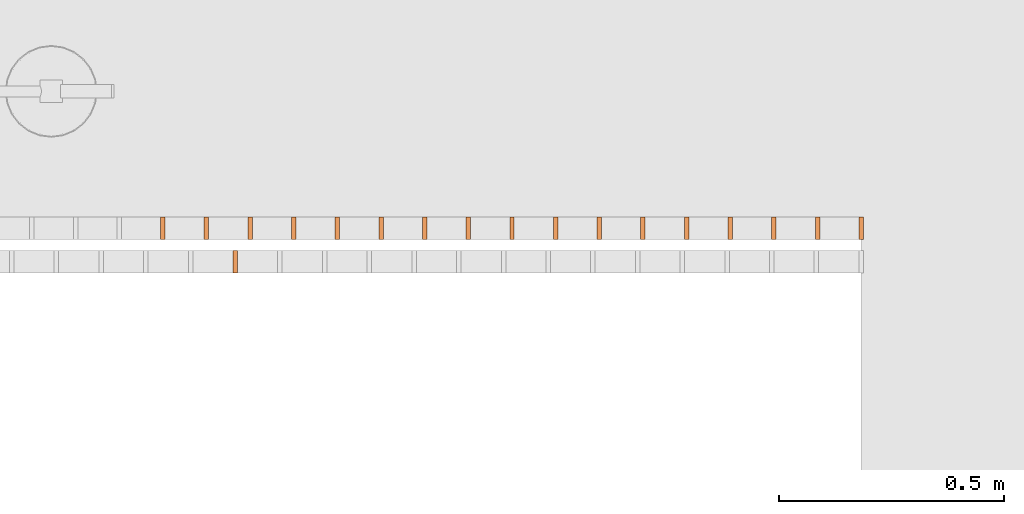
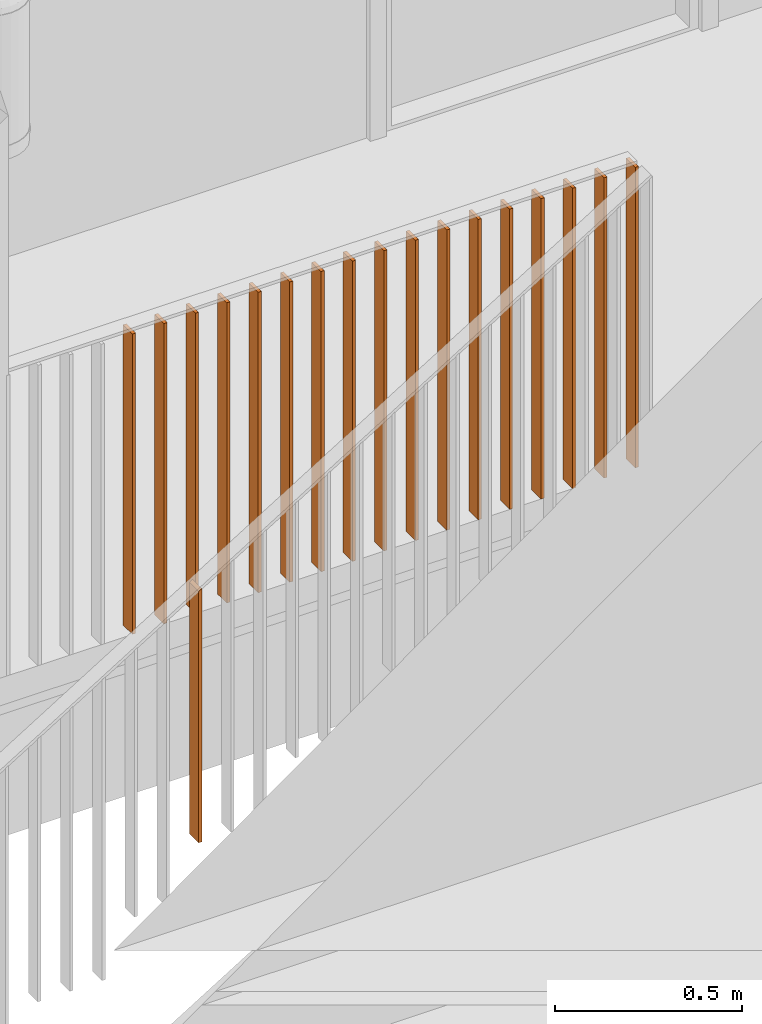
# One storey, part 84 of 100: 18 proxies, 2 elements without a shape of their own.
"""IFC2X3 building model written with IfcOpenShell, lengths in millimetres."""

from ifc_helpers import new_model, entity, si_unit, converted_unit, derived_unit, money_unit, direction, frame, origin_with_axes, place, context, subcontext, project, spatial, faceted_brep, source, transform, mapped, material, type_object, element, aggregate, save


model = new_model("IFC2X3")

# Units and contexts
model_context = context("Model", 3, precision=0.01, world=origin_with_axes(), true_north=direction((0.0, 1.0)))
body_context = subcontext(model_context, "Body", "Model", "MODEL_VIEW")
ifc_project = project(units=[si_unit("LENGTHUNIT", "METRE", prefix="MILLI"), si_unit("AREAUNIT", "SQUARE_METRE"), si_unit("VOLUMEUNIT", "CUBIC_METRE"), converted_unit("PLANEANGLEUNIT", "DEGREE", entity("IfcPlaneAngleMeasure", 0.0174532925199), si_unit("PLANEANGLEUNIT", "RADIAN"), dimensions=[0, 0, 0, 0, 0, 0, 0]), si_unit("SOLIDANGLEUNIT", "STERADIAN"), money_unit("EUR"), converted_unit("TIMEUNIT", "Year", entity("IfcTimeMeasure", 31556926.0), si_unit("TIMEUNIT", "SECOND"), dimensions=[0, 0, 1, 0, 0, 0, 0]), si_unit("MASSUNIT", "GRAM", prefix="KILO"), si_unit("THERMODYNAMICTEMPERATUREUNIT", "DEGREE_CELSIUS"), si_unit("LUMINOUSINTENSITYUNIT", "LUMEN"), si_unit("ENERGYUNIT", "JOULE", prefix="MEGA"), derived_unit("THERMALCONDUCTANCEUNIT", [(si_unit("POWERUNIT", "WATT"), 1), (si_unit("LENGTHUNIT", "METRE"), -1), (si_unit("THERMODYNAMICTEMPERATUREUNIT", "KELVIN"), -1)]), derived_unit("SPECIFICHEATCAPACITYUNIT", [(si_unit("ENERGYUNIT", "JOULE"), 1), (si_unit("MASSUNIT", "GRAM", prefix="KILO"), -1), (si_unit("THERMODYNAMICTEMPERATUREUNIT", "KELVIN"), -1)]), derived_unit("MASSDENSITYUNIT", [(si_unit("MASSUNIT", "GRAM", prefix="KILO"), 1), (si_unit("VOLUMEUNIT", "CUBIC_METRE"), -1)])], contexts=[model_context])

# Site, building, storey
site_placement = place(None, origin_with_axes())
site = spatial("IfcSite", under=ifc_project, at=site_placement, Name="Politse- ja Piirivalveameti ning Päästeameti ühishoone", CompositionType="ELEMENT")
building_placement = place(site_placement, origin_with_axes())
building = spatial("IfcBuilding", under=site, at=building_placement, Name="Politse- ja Piirivalveameti ning Päästeameti ühishoone", CompositionType="ELEMENT")
storey_placement = place(building_placement, frame((0.0, 0.0, 3800.0), z_axis=(0.0, 0.0, 1.0), x_axis=(1.0, 0.0, 0.0)))
storey = spatial("IfcBuildingStorey", under=building, at=storey_placement, Name="Teine korrus", CompositionType="ELEMENT", Elevation=3800.0)

# Railing, proxies
railing_type = type_object("IfcRailingType", Name="Railing Type", PredefinedType="NOTDEFINED")
railing_1_placement = place(storey_placement, frame((26625.7771626, 12810.0198723, -2.69359405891e-05), z_axis=(0.0, 0.0, 1.0), x_axis=(0.0, 1.0, 0.0)))
railing_1 = element("IfcRailing", 1, at=railing_1_placement, inside=storey, type_object=railing_type, Name="PIIRE 2", PredefinedType="NOTDEFINED")
ifc_material = material(Name="Teras - Konstruktsioon")
building_element_proxy_type = type_object("IfcBuildingElementProxyType", Name="IfcBuildingElementProxy", PredefinedType="NOTDEFINED")
shared_shape_1 = source(origin_with_axes(), body_context, "Body", "Brep", [
    faceted_brep([(25.0, 5.0, 0.0), (-25.0, 5.0, 0.0), (-25.0, 5.0, 980.0), (25.0, 5.0, 980.0), (25.0, -5.0, 0.0), (-25.0, -5.0, 0.0), (-25.0, -5.0, 980.0), (25.0, -5.0, 980.0)], [[[0, 1, 2, 3]], [[0, 4, 5, 1]], [[1, 5, 6, 2]], [[3, 2, 6, 7]], [[4, 0, 3, 7]], [[5, 4, 7, 6]]]),
])
proxy_1_placement = place(railing_1_placement, frame((25.0, 1425.75114423, 0.0), z_axis=(0.0, 0.0, 1.0), x_axis=(0.0, -1.0, 0.0)))
proxy_1 = element("IfcBuildingElementProxy", 2, at=proxy_1_placement, type_object=building_element_proxy_type, material=ifc_material, Name="PIIRDE POST - 001", context=body_context, shape_type="MappedRepresentation", body=[
    mapped(shared_shape_1, transform((0.0, 0.0, 0.0), x_axis=(0.0, 1.0, 0.0), y_axis=(-1.0, 0.0, 0.0), z_axis=(0.0, 0.0, 1.0))),
])
shared_shape_2 = source(origin_with_axes(), body_context, "Body", "Brep", [
    faceted_brep([(25.0, 5.0, 0.0), (-25.0, 5.0, 0.0), (-25.0, 5.0, 980.000012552), (25.0, 5.0, 980.000012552), (25.0, -5.0, 0.0), (-25.0, -5.0, 0.0), (-25.0, -5.0, 980.000012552), (25.0, -5.0, 980.000012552)], [[[0, 1, 2, 3]], [[0, 4, 5, 1]], [[1, 5, 6, 2]], [[3, 2, 6, 7]], [[4, 0, 3, 7]], [[5, 4, 7, 6]]]),
])
proxy_2_placement = place(railing_1_placement, frame((25.0, 1522.75114423, -1.25516996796e-05), z_axis=(0.0, 0.0, 1.0), x_axis=(0.0, -1.0, 0.0)))
proxy_2 = element("IfcBuildingElementProxy", 3, at=proxy_2_placement, type_object=building_element_proxy_type, material=ifc_material, Name="BALUSTER - 001", context=body_context, shape_type="MappedRepresentation", body=[
    mapped(shared_shape_2, transform((0.0, 0.0, 0.0), x_axis=(0.0, 1.0, 0.0), y_axis=(-1.0, 0.0, 0.0), z_axis=(0.0, 0.0, 1.0))),
])
proxy_3_placement = place(railing_1_placement, frame((25.0, 1619.75114423, -1.25516996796e-05), z_axis=(0.0, 0.0, 1.0), x_axis=(0.0, -1.0, 0.0)))
proxy_3 = element("IfcBuildingElementProxy", 4, at=proxy_3_placement, type_object=building_element_proxy_type, material=ifc_material, Name="BALUSTER - 001", context=body_context, shape_type="MappedRepresentation", body=[
    mapped(shared_shape_2, transform((0.0, 0.0, 0.0), x_axis=(0.0, 1.0, 0.0), y_axis=(-1.0, 0.0, 0.0), z_axis=(0.0, 0.0, 1.0))),
])
proxy_4_placement = place(railing_1_placement, frame((25.0, 1716.75114423, -1.25516996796e-05), z_axis=(0.0, 0.0, 1.0), x_axis=(0.0, -1.0, 0.0)))
proxy_4 = element("IfcBuildingElementProxy", 5, at=proxy_4_placement, type_object=building_element_proxy_type, material=ifc_material, Name="BALUSTER - 001", context=body_context, shape_type="MappedRepresentation", body=[
    mapped(shared_shape_2, transform((0.0, 0.0, 0.0), x_axis=(0.0, 1.0, 0.0), y_axis=(-1.0, 0.0, 0.0), z_axis=(0.0, 0.0, 1.0))),
])
proxy_5_placement = place(railing_1_placement, frame((25.0, 1813.75114423, -1.25516996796e-05), z_axis=(0.0, 0.0, 1.0), x_axis=(0.0, -1.0, 0.0)))
proxy_5 = element("IfcBuildingElementProxy", 6, at=proxy_5_placement, type_object=building_element_proxy_type, material=ifc_material, Name="BALUSTER - 001", context=body_context, shape_type="MappedRepresentation", body=[
    mapped(shared_shape_2, transform((0.0, 0.0, 0.0), x_axis=(0.0, 1.0, 0.0), y_axis=(-1.0, 0.0, 0.0), z_axis=(0.0, 0.0, 1.0))),
])
proxy_6_placement = place(railing_1_placement, frame((25.0, 1910.75114423, -1.25516996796e-05), z_axis=(0.0, 0.0, 1.0), x_axis=(0.0, -1.0, 0.0)))
proxy_6 = element("IfcBuildingElementProxy", 7, at=proxy_6_placement, type_object=building_element_proxy_type, material=ifc_material, Name="BALUSTER - 001", context=body_context, shape_type="MappedRepresentation", body=[
    mapped(shared_shape_2, transform((0.0, 0.0, 0.0), x_axis=(0.0, 1.0, 0.0), y_axis=(-1.0, 0.0, 0.0), z_axis=(0.0, 0.0, 1.0))),
])
proxy_7_placement = place(railing_1_placement, frame((25.0, 2007.75114423, -1.25516996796e-05), z_axis=(0.0, 0.0, 1.0), x_axis=(0.0, -1.0, 0.0)))
proxy_7 = element("IfcBuildingElementProxy", 8, at=proxy_7_placement, type_object=building_element_proxy_type, material=ifc_material, Name="BALUSTER - 001", context=body_context, shape_type="MappedRepresentation", body=[
    mapped(shared_shape_2, transform((0.0, 0.0, 0.0), x_axis=(0.0, 1.0, 0.0), y_axis=(-1.0, 0.0, 0.0), z_axis=(0.0, 0.0, 1.0))),
])
proxy_8_placement = place(railing_1_placement, frame((25.0, 2104.75114423, -1.25516996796e-05), z_axis=(0.0, 0.0, 1.0), x_axis=(0.0, -1.0, 0.0)))
proxy_8 = element("IfcBuildingElementProxy", 9, at=proxy_8_placement, type_object=building_element_proxy_type, material=ifc_material, Name="BALUSTER - 001", context=body_context, shape_type="MappedRepresentation", body=[
    mapped(shared_shape_2, transform((0.0, 0.0, 0.0), x_axis=(0.0, 1.0, 0.0), y_axis=(-1.0, 0.0, 0.0), z_axis=(0.0, 0.0, 1.0))),
])
proxy_9_placement = place(railing_1_placement, frame((25.0, 2201.75114423, -1.25516996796e-05), z_axis=(0.0, 0.0, 1.0), x_axis=(0.0, -1.0, 0.0)))
proxy_9 = element("IfcBuildingElementProxy", 10, at=proxy_9_placement, type_object=building_element_proxy_type, material=ifc_material, Name="BALUSTER - 001", context=body_context, shape_type="MappedRepresentation", body=[
    mapped(shared_shape_2, transform((0.0, 0.0, 0.0), x_axis=(0.0, 1.0, 0.0), y_axis=(-1.0, 0.0, 0.0), z_axis=(0.0, 0.0, 1.0))),
])
proxy_10_placement = place(railing_1_placement, frame((25.0, 2298.75114423, -1.25516996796e-05), z_axis=(0.0, 0.0, 1.0), x_axis=(0.0, -1.0, 0.0)))
proxy_10 = element("IfcBuildingElementProxy", 11, at=proxy_10_placement, type_object=building_element_proxy_type, material=ifc_material, Name="BALUSTER - 001", context=body_context, shape_type="MappedRepresentation", body=[
    mapped(shared_shape_2, transform((0.0, 0.0, 0.0), x_axis=(0.0, 1.0, 0.0), y_axis=(-1.0, 0.0, 0.0), z_axis=(0.0, 0.0, 1.0))),
])
proxy_11_placement = place(railing_1_placement, frame((25.0, 2395.75114423, -1.25516996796e-05), z_axis=(0.0, 0.0, 1.0), x_axis=(0.0, -1.0, 0.0)))
proxy_11 = element("IfcBuildingElementProxy", 12, at=proxy_11_placement, type_object=building_element_proxy_type, material=ifc_material, Name="BALUSTER - 001", context=body_context, shape_type="MappedRepresentation", body=[
    mapped(shared_shape_2, transform((0.0, 0.0, 0.0), x_axis=(0.0, 1.0, 0.0), y_axis=(-1.0, 0.0, 0.0), z_axis=(0.0, 0.0, 1.0))),
])
proxy_12_placement = place(railing_1_placement, frame((25.0, 2492.75114423, -1.25516996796e-05), z_axis=(0.0, 0.0, 1.0), x_axis=(0.0, -1.0, 0.0)))
proxy_12 = element("IfcBuildingElementProxy", 13, at=proxy_12_placement, type_object=building_element_proxy_type, material=ifc_material, Name="BALUSTER - 001", context=body_context, shape_type="MappedRepresentation", body=[
    mapped(shared_shape_2, transform((0.0, 0.0, 0.0), x_axis=(0.0, 1.0, 0.0), y_axis=(-1.0, 0.0, 0.0), z_axis=(0.0, 0.0, 1.0))),
])
proxy_13_placement = place(railing_1_placement, frame((25.0, 2589.75114423, -1.25516996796e-05), z_axis=(0.0, 0.0, 1.0), x_axis=(0.0, -1.0, 0.0)))
proxy_13 = element("IfcBuildingElementProxy", 14, at=proxy_13_placement, type_object=building_element_proxy_type, material=ifc_material, Name="BALUSTER - 001", context=body_context, shape_type="MappedRepresentation", body=[
    mapped(shared_shape_2, transform((0.0, 0.0, 0.0), x_axis=(0.0, 1.0, 0.0), y_axis=(-1.0, 0.0, 0.0), z_axis=(0.0, 0.0, 1.0))),
])
proxy_14_placement = place(railing_1_placement, frame((25.0, 2686.75114423, -1.25516996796e-05), z_axis=(0.0, 0.0, 1.0), x_axis=(0.0, -1.0, 0.0)))
proxy_14 = element("IfcBuildingElementProxy", 15, at=proxy_14_placement, type_object=building_element_proxy_type, material=ifc_material, Name="BALUSTER - 001", context=body_context, shape_type="MappedRepresentation", body=[
    mapped(shared_shape_2, transform((0.0, 0.0, 0.0), x_axis=(0.0, 1.0, 0.0), y_axis=(-1.0, 0.0, 0.0), z_axis=(0.0, 0.0, 1.0))),
])
proxy_15_placement = place(railing_1_placement, frame((25.0, 2783.75114423, -1.25516996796e-05), z_axis=(0.0, 0.0, 1.0), x_axis=(0.0, -1.0, 0.0)))
proxy_15 = element("IfcBuildingElementProxy", 16, at=proxy_15_placement, type_object=building_element_proxy_type, material=ifc_material, Name="BALUSTER - 001", context=body_context, shape_type="MappedRepresentation", body=[
    mapped(shared_shape_2, transform((0.0, 0.0, 0.0), x_axis=(0.0, 1.0, 0.0), y_axis=(-1.0, 0.0, 0.0), z_axis=(0.0, 0.0, 1.0))),
])
proxy_16_placement = place(railing_1_placement, frame((25.0, 2880.75114423, -1.25516996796e-05), z_axis=(0.0, 0.0, 1.0), x_axis=(0.0, -1.0, 0.0)))
proxy_16 = element("IfcBuildingElementProxy", 17, at=proxy_16_placement, type_object=building_element_proxy_type, material=ifc_material, Name="BALUSTER - 001", context=body_context, shape_type="MappedRepresentation", body=[
    mapped(shared_shape_2, transform((0.0, 0.0, 0.0), x_axis=(0.0, 1.0, 0.0), y_axis=(-1.0, 0.0, 0.0), z_axis=(0.0, 0.0, 1.0))),
])
proxy_17_placement = place(railing_1_placement, frame((25.0, 2977.75114423, -1.25516996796e-05), z_axis=(0.0, 0.0, 1.0), x_axis=(0.0, -1.0, 0.0)))
proxy_17 = element("IfcBuildingElementProxy", 18, at=proxy_17_placement, type_object=building_element_proxy_type, material=ifc_material, Name="BALUSTER - 001", context=body_context, shape_type="MappedRepresentation", body=[
    mapped(shared_shape_2, transform((0.0, 0.0, 0.0), x_axis=(0.0, 1.0, 0.0), y_axis=(-1.0, 0.0, 0.0), z_axis=(0.0, 0.0, 1.0))),
])
aggregate(railing_1, [proxy_1, proxy_2, proxy_3, proxy_4, proxy_5, proxy_6, proxy_7, proxy_8, proxy_9, proxy_10, proxy_11, proxy_12, proxy_13, proxy_14, proxy_15, proxy_16, proxy_17])

# Railing, proxy
railing_2_placement = place(storey_placement, frame((18400.0260184, 12785.0198611, -3800.0), z_axis=(0.0, 0.0, 1.0), x_axis=(1.0, 0.0, 0.0)))
railing_2 = element("IfcRailing", 19, at=railing_2_placement, inside=storey, type_object=railing_type, Name="TREPIPIIRE 7", PredefinedType="NOTDEFINED")
shared_shape_3 = source(origin_with_axes(), body_context, "Body", "Brep", [
    faceted_brep([(25.0, 5.0, 0.0), (-25.0, 5.0, 0.0), (-25.0, 5.0, 825.929002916), (25.0, 5.0, 825.929002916), (25.0, -5.0, 0.0), (-25.0, -5.0, 0.0), (-25.0, -5.0, 819.760171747), (25.0, -5.0, 819.760171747)], [[[0, 1, 2, 3]], [[0, 4, 5, 1]], [[1, 5, 6, 2]], [[3, 2, 6, 7]], [[4, 0, 3, 7]], [[5, 4, 7, 6]]]),
])
proxy_18_placement = place(railing_2_placement, frame((5409.03225806, -25.0, 3109.09089654), z_axis=(0.0, 0.0, 1.0), x_axis=(1.0, 0.0, 0.0)))
proxy_18 = element("IfcBuildingElementProxy", 20, at=proxy_18_placement, type_object=building_element_proxy_type, material=ifc_material, Name="BALUSTER - 001", context=body_context, shape_type="MappedRepresentation", body=[
    mapped(shared_shape_3, transform((0.0, 0.0, 0.0), x_axis=(0.0, -1.0, 0.0), y_axis=(1.0, 0.0, 0.0), z_axis=(0.0, 0.0, 1.0))),
])
aggregate(railing_2, [proxy_18])

save(model, "model.ifc")
